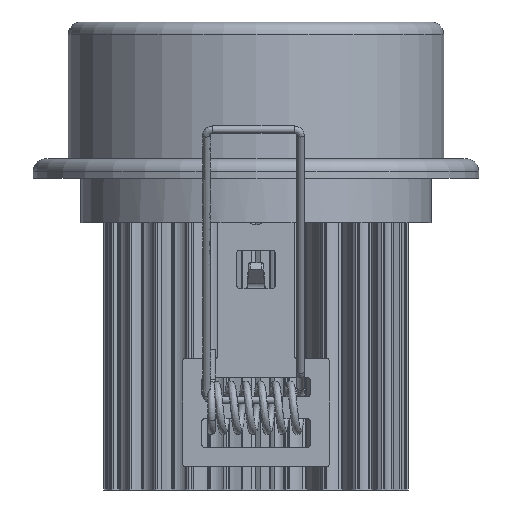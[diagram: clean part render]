
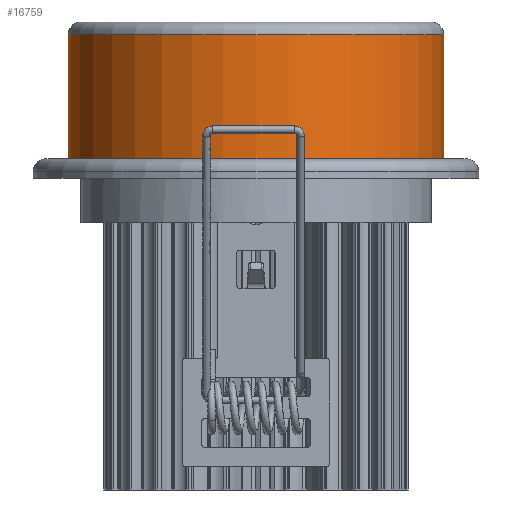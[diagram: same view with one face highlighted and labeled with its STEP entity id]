
A CAD part, front view. The second image highlights one B-rep face of the part: STEP entity #16759.
In plain terms, the highlighted cylindrical face has radius 29.495 mm (diameter 58.989 mm), a full revolution.
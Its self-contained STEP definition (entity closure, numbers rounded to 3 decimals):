
#883=CYLINDRICAL_SURFACE('',#17970,29.495);
#1778=FACE_OUTER_BOUND('',#2820,.T.);
#2820=EDGE_LOOP('',(#13230,#13231,#13232,#13233));
#3611=CIRCLE('',#17969,29.495);
#3612=CIRCLE('',#17971,29.495);
#4688=LINE('',#47291,#5847);
#5847=VECTOR('',#20959,29.495);
#7344=VERTEX_POINT('',#47286);
#7345=VERTEX_POINT('',#47289);
#9460=EDGE_CURVE('',#7344,#7344,#3611,.T.);
#9461=EDGE_CURVE('',#7345,#7345,#3612,.T.);
#9462=EDGE_CURVE('',#7345,#7344,#4688,.T.);
#13230=ORIENTED_EDGE('',*,*,#9461,.F.);
#13231=ORIENTED_EDGE('',*,*,#9462,.T.);
#13232=ORIENTED_EDGE('',*,*,#9460,.T.);
#13233=ORIENTED_EDGE('',*,*,#9462,.F.);
#16759=ADVANCED_FACE('',(#1778),#883,.T.);
#17969=AXIS2_PLACEMENT_3D('',#47287,#20953,#20954);
#17970=AXIS2_PLACEMENT_3D('',#47288,#20955,#20956);
#17971=AXIS2_PLACEMENT_3D('',#47290,#20957,#20958);
#20953=DIRECTION('center_axis',(0.,0.,1.));
#20954=DIRECTION('ref_axis',(1.,0.,0.));
#20955=DIRECTION('center_axis',(0.,0.,1.));
#20956=DIRECTION('ref_axis',(1.,0.,0.));
#20957=DIRECTION('center_axis',(0.,0.,1.));
#20958=DIRECTION('ref_axis',(1.,0.,0.));
#20959=DIRECTION('',(0.,0.,-1.));
#47286=CARTESIAN_POINT('',(-29.495,0.,-318.));
#47287=CARTESIAN_POINT('Origin',(0.,0.,-318.));
#47288=CARTESIAN_POINT('Origin',(0.,0.,-308.25));
#47289=CARTESIAN_POINT('',(-29.495,0.,-298.5));
#47290=CARTESIAN_POINT('Origin',(0.,0.,-298.5));
#47291=CARTESIAN_POINT('',(-29.495,0.,-308.25));
